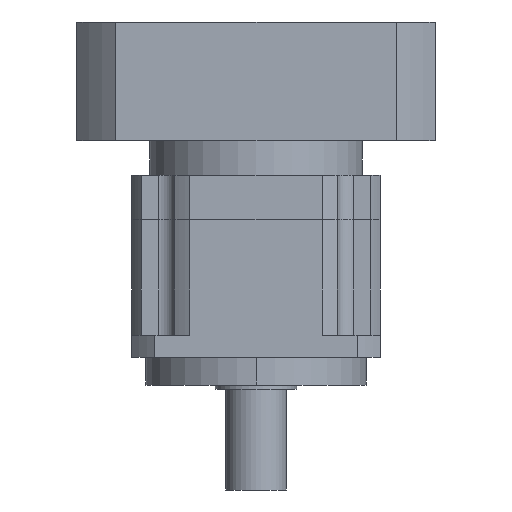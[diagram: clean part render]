
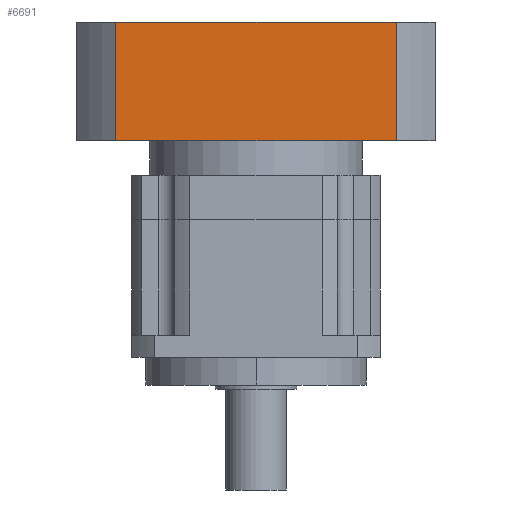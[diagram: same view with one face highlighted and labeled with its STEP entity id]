
A CAD part, front view. The second image highlights one B-rep face of the part: STEP entity #6691.
In plain terms, the highlighted planar face has unit normal (0, -1, 0).
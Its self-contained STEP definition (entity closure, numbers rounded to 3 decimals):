
#119 = ORIENTED_EDGE ( 'NONE', *, *, #7506, .T. ) ;
#812 = VERTEX_POINT ( 'NONE', #4913 ) ;
#1024 = CARTESIAN_POINT ( 'NONE',  ( 0., -65., 88.5 ) ) ;
#1359 = AXIS2_PLACEMENT_3D ( 'NONE', #11262, #2552, #8678 ) ;
#1381 = ORIENTED_EDGE ( 'NONE', *, *, #5967, .F. ) ;
#1654 = PLANE ( 'NONE',  #1359 ) ;
#2205 = VERTEX_POINT ( 'NONE', #7011 ) ;
#2294 = LINE ( 'NONE', #1024, #6951 ) ;
#2552 = DIRECTION ( 'NONE',  ( 0., -1., 0. ) ) ;
#2759 = ORIENTED_EDGE ( 'NONE', *, *, #7956, .T. ) ;
#2870 = CARTESIAN_POINT ( 'NONE',  ( 50.806, -65., 110. ) ) ;
#3762 = VECTOR ( 'NONE', #5573, 1000. ) ;
#4604 = LINE ( 'NONE', #2870, #6941 ) ;
#4799 = VERTEX_POINT ( 'NONE', #9781 ) ;
#4913 = CARTESIAN_POINT ( 'NONE',  ( 50.806, -65., 88.5 ) ) ;
#5177 = CARTESIAN_POINT ( 'NONE',  ( -50.806, -65., 131.5 ) ) ;
#5573 = DIRECTION ( 'NONE',  ( 0., 0., -1. ) ) ;
#5706 = FACE_OUTER_BOUND ( 'NONE', #6458, .T. ) ;
#5795 = VECTOR ( 'NONE', #7067, 1000. ) ;
#5967 = EDGE_CURVE ( 'NONE', #6704, #4799, #8419, .T. ) ;
#6273 = DIRECTION ( 'NONE',  ( 1., 0., 0. ) ) ;
#6458 = EDGE_LOOP ( 'NONE', ( #1381, #11396, #119, #2759 ) ) ;
#6691 = ADVANCED_FACE ( 'NONE', ( #5706 ), #1654, .T. ) ;
#6704 = VERTEX_POINT ( 'NONE', #5177 ) ;
#6941 = VECTOR ( 'NONE', #8133, 1000. ) ;
#6951 = VECTOR ( 'NONE', #6273, 1000. ) ;
#7011 = CARTESIAN_POINT ( 'NONE',  ( -50.806, -65., 88.5 ) ) ;
#7067 = DIRECTION ( 'NONE',  ( 1., 0., 0. ) ) ;
#7506 = EDGE_CURVE ( 'NONE', #2205, #812, #2294, .T. ) ;
#7956 = EDGE_CURVE ( 'NONE', #812, #4799, #4604, .T. ) ;
#8133 = DIRECTION ( 'NONE',  ( 0., 0., 1. ) ) ;
#8419 = LINE ( 'NONE', #10567, #5795 ) ;
#8447 = LINE ( 'NONE', #10843, #3762 ) ;
#8678 = DIRECTION ( 'NONE',  ( 0., 0., -1. ) ) ;
#9781 = CARTESIAN_POINT ( 'NONE',  ( 50.806, -65., 131.5 ) ) ;
#10245 = EDGE_CURVE ( 'NONE', #6704, #2205, #8447, .T. ) ;
#10567 = CARTESIAN_POINT ( 'NONE',  ( 0., -65., 131.5 ) ) ;
#10843 = CARTESIAN_POINT ( 'NONE',  ( -50.806, -65., 110. ) ) ;
#11262 = CARTESIAN_POINT ( 'NONE',  ( -50.806, -65., 131.5 ) ) ;
#11396 = ORIENTED_EDGE ( 'NONE', *, *, #10245, .T. ) ;
